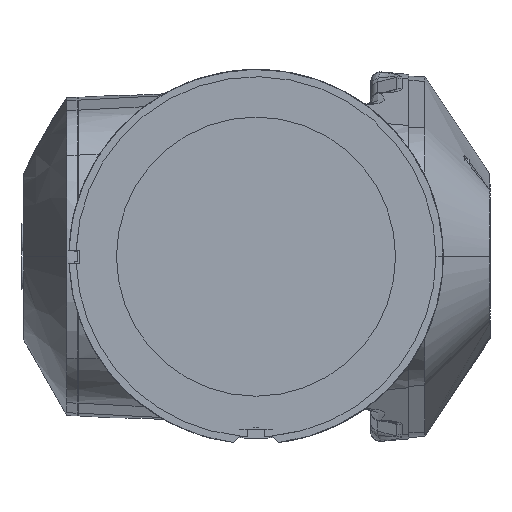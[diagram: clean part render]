
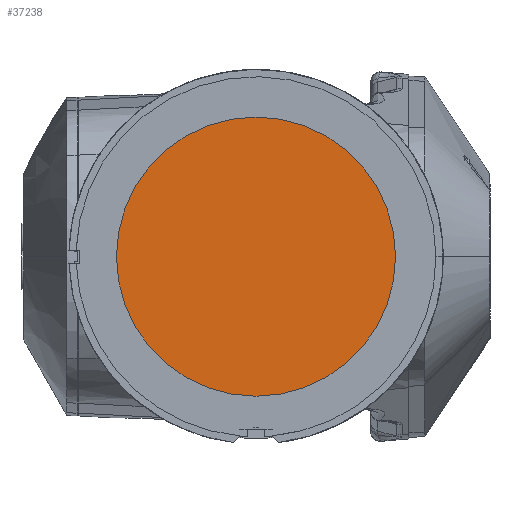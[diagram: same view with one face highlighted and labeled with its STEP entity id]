
A CAD part, left-side view. The second image highlights one B-rep face of the part: STEP entity #37238.
In plain terms, the highlighted planar face has unit normal (-1, 0, 0).
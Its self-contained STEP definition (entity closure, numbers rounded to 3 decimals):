
#74 = EDGE_CURVE ( 'NONE', #4096, #8308, #5341, .T. ) ;
#96 = AXIS2_PLACEMENT_3D ( 'NONE', #33464, #21524, #18444 ) ;
#4096 = VERTEX_POINT ( 'NONE', #35343 ) ;
#5341 = CIRCLE ( 'NONE', #96, 85. ) ;
#8308 = VERTEX_POINT ( 'NONE', #25397 ) ;
#10822 = CARTESIAN_POINT ( 'NONE',  ( 309.5, 0., 1800. ) ) ;
#17975 = AXIS2_PLACEMENT_3D ( 'NONE', #19251, #31770, #28695 ) ;
#18444 = DIRECTION ( 'NONE',  ( 0., -1., 0. ) ) ;
#19251 = CARTESIAN_POINT ( 'NONE',  ( 309.5, 0., 1800. ) ) ;
#21524 = DIRECTION ( 'NONE',  ( -1., 0., 0. ) ) ;
#22756 = PLANE ( 'NONE',  #17975 ) ;
#25397 = CARTESIAN_POINT ( 'NONE',  ( 309.5, -85., 1800. ) ) ;
#25824 = CIRCLE ( 'NONE', #34997, 85. ) ;
#27269 = DIRECTION ( 'NONE',  ( 0., -1., 0. ) ) ;
#27571 = ORIENTED_EDGE ( 'NONE', *, *, #74, .T. ) ;
#27681 = EDGE_CURVE ( 'NONE', #8308, #4096, #25824, .T. ) ;
#28695 = DIRECTION ( 'NONE',  ( 0., -1., 0. ) ) ;
#31770 = DIRECTION ( 'NONE',  ( -1., 0., 0. ) ) ;
#32401 = FACE_OUTER_BOUND ( 'NONE', #40285, .T. ) ;
#32839 = DIRECTION ( 'NONE',  ( -1., 0., 0. ) ) ;
#33464 = CARTESIAN_POINT ( 'NONE',  ( 309.5, 0., 1800. ) ) ;
#34997 = AXIS2_PLACEMENT_3D ( 'NONE', #10822, #32839, #27269 ) ;
#35108 = ORIENTED_EDGE ( 'NONE', *, *, #27681, .T. ) ;
#35343 = CARTESIAN_POINT ( 'NONE',  ( 309.5, 85., 1800. ) ) ;
#37238 = ADVANCED_FACE ( 'NONE', ( #32401 ), #22756, .T. ) ;
#40285 = EDGE_LOOP ( 'NONE', ( #27571, #35108 ) ) ;
